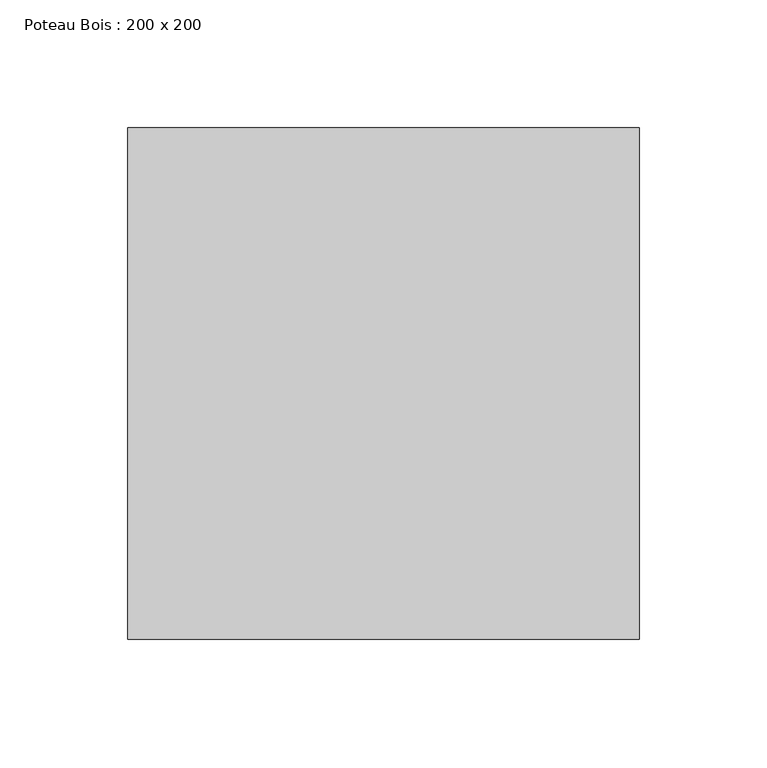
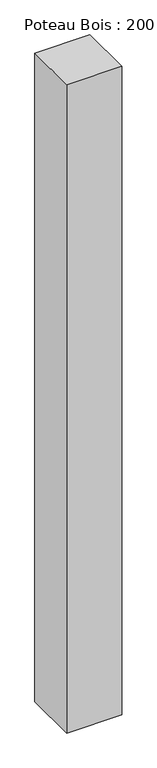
"""IFC4 building model written with IfcOpenShell, lengths in millimetres: column geometry, Poteau Bois : 200 x 200."""

from ifc_helpers import new_model, si_unit, origin, origin_with_axes, place, context, project, spatial, polyline, outline, extrude, source, transform, mapped, element, save


def poteau_bois_200_x_200_9f611ec2(model_context):
    return source(origin(), model_context, "Body", "SweptSolid", [
        extrude(outline(polyline([(100.0, -100.0), (-100.0, -100.0), (-100.0, 100.0), (100.0, 100.0), (100.0, -100.0)])), origin_with_axes(), (0.0, 0.0, 1.0), 2495.0),
    ])


if __name__ == "__main__":
    model = new_model("IFC4")
    model_context = context("Model", 3, world=origin())
    ifc_project = project(units=[si_unit("LENGTHUNIT", "METRE", prefix="MILLI")], contexts=[model_context])
    site = spatial("IfcSite", under=ifc_project)
    building = spatial("IfcBuilding", under=site)
    placement = place(None, origin())
    poteau_bois_200_x_200_shape = poteau_bois_200_x_200_9f611ec2(model_context)
    element("IfcColumn", 1, ObjectType="Poteau Bois : 200 x 200", at=placement, inside=building, context=model_context, shape_type="MappedRepresentation", body=[
        mapped(poteau_bois_200_x_200_shape, transform((0.0, 0.0, 0.0), x_axis=(1.0, 0.0, 0.0), y_axis=(0.0, 1.0, 0.0), z_axis=(0.0, 0.0, 1.0))),
    ])
    save(model, "model.ifc")
